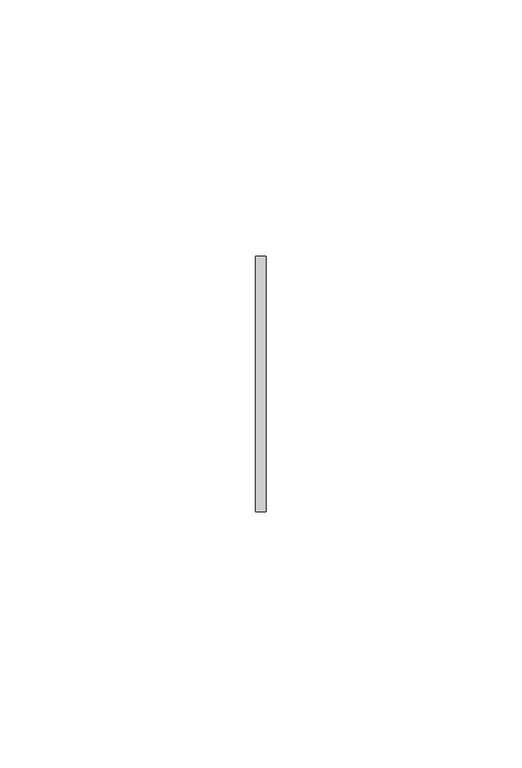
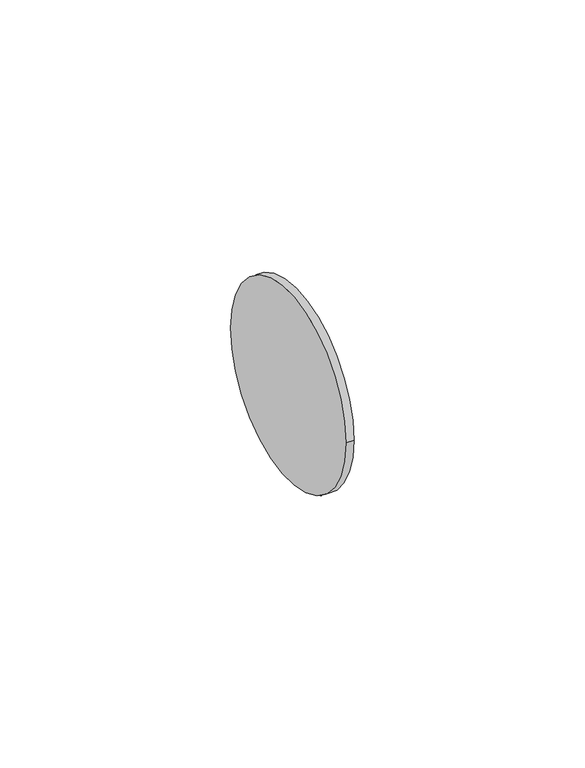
"""IFC4 building model written with IfcOpenShell, lengths in millimetres: air terminal geometry, Air Inlet_Virtual _Circular : Air Inlet_Virtual _Circular."""

from ifc_helpers import new_model, si_unit, point, frame, origin, origin_2d, place, context, project, spatial, circle_curve, trimmed, segment, composite_curve, outline, extrude, source, transform, mapped, element, save


def air_terminal_06ff5f08(model_context):
    return source(origin(), model_context, "Body", "SweptSolid", [
        extrude(outline(composite_curve([segment(trimmed(circle_curve(origin_2d(), 25.0), [point((25.0, 0.0))], [point((-25.0, 0.0))], False, "CARTESIAN"), True, "CONTINUOUS"), segment(trimmed(circle_curve(origin_2d(), 25.0), [point((-25.0, 0.0))], [point((25.0, 0.0))], False, "CARTESIAN"), True, "CONTINUOUS")], self_intersect=False)), frame((0.0, 0.0, 0.0), z_axis=(1.0, 0.0, 0.0), x_axis=(0.0, 1.0, 0.0)), (0.0, 0.0, 1.0), 2.0),
    ])


if __name__ == "__main__":
    model = new_model("IFC4")
    model_context = context("Model", 3, world=origin())
    ifc_project = project(units=[si_unit("LENGTHUNIT", "METRE", prefix="MILLI")], contexts=[model_context])
    site = spatial("IfcSite", under=ifc_project)
    building = spatial("IfcBuilding", under=site)
    placement = place(None, origin())
    air_terminal_shape = air_terminal_06ff5f08(model_context)
    element("IfcAirTerminal", 1, ObjectType="Air Inlet_Virtual _Circular : Air Inlet_Virtual _Circular", at=placement, inside=building, context=model_context, shape_type="MappedRepresentation", body=[
        mapped(air_terminal_shape, transform((0.0, 0.0, 0.0), x_axis=(1.0, 0.0, 0.0), y_axis=(0.0, 1.0, 0.0), z_axis=(0.0, 0.0, 1.0))),
    ])
    save(model, "model.ifc")
